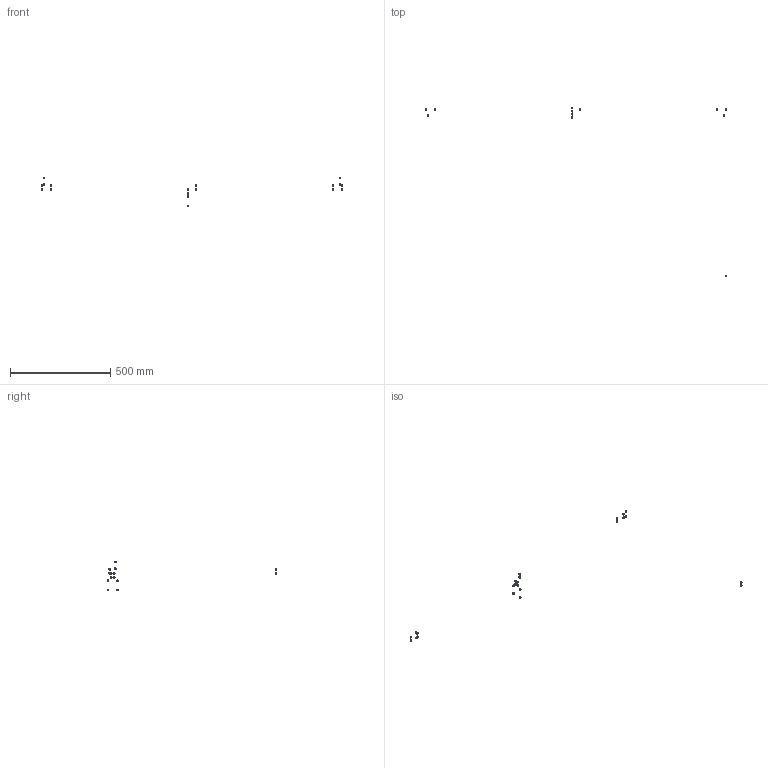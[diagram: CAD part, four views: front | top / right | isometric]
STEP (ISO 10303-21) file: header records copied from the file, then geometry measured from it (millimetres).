
FILE_DESCRIPTION(/* description */ (''),/* implementation_level */ '2;1');
FILE_NAME(/* name */ 'Y-F631~1',/* time_stamp */ '2014-02-14T19:42:17+01:00',/* author */ (''),/* organization */ (''),/* preprocessor_version */ 'ST-DEVELOPER v14',/* originating_system */ '',/* authorisation */ '');
FILE_SCHEMA (('AUTOMOTIVE_DESIGN'));
Length unit declared in the file: millimetre
Products named in the file (3): Document; nut DIN985, nyloc thin, M5; nut DIN985-like, lock, M5
Assembly tree (12 placements, depth 2):
  Document
    nut DIN985, nyloc thin, M5  x2
    nut DIN985-like, lock, M5  x10
Bounding box: 1505.2 x 847.22 x 148.15 mm (x, y, z)
Volume: 4159.1 mm3; surface area: 6503.2 mm2
Topology: 24 solids, 24 shells, 1156 faces, 2796 edges, 1688 vertices
Faces by surface type: bspline 664, plane 492
Entity records: 48216 total; most frequent: CARTESIAN_POINT 28347, ORIENTED_EDGE 3154, PCURVE 3154, DEFINITIONAL_REPRESENTATION 3154, B_SPLINE_CURVE_WITH_KNOTS 3135, SURFACE_CURVE 1577, EDGE_CURVE 1577, VERTEX_POINT 954
